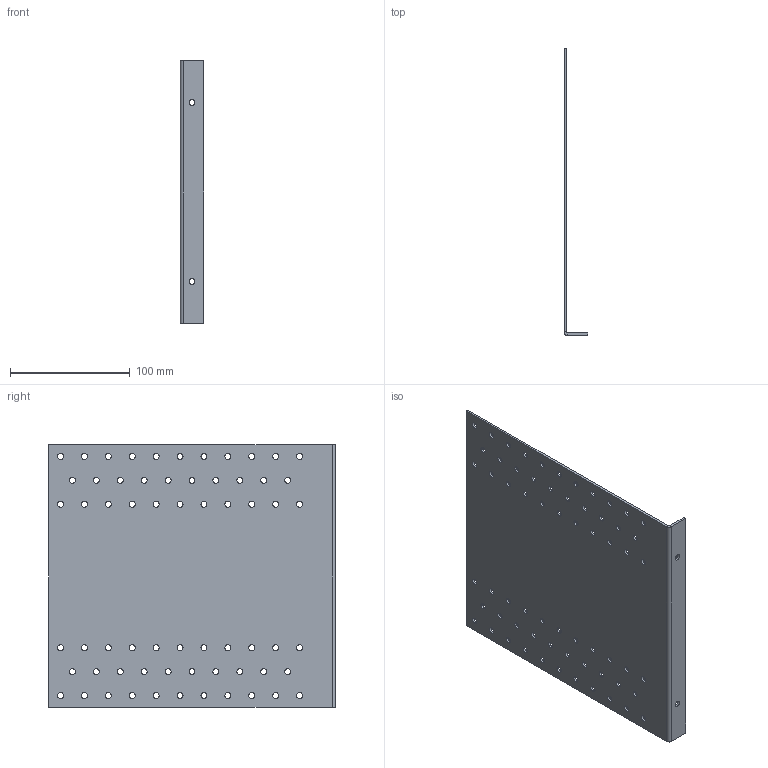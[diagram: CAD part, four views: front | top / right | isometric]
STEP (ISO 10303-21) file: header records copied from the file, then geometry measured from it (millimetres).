
FILE_DESCRIPTION (( 'STEP AP203' ), '1' );
FILE_NAME ('224.STEP', '2020-04-17T13:10:47', ( '' ), ( '' ), 'SwSTEP 2.0', 'SolidWorks 2013', '' );
FILE_SCHEMA (( 'CONFIG_CONTROL_DESIGN' ));
Length unit declared in the file: millimetre
Products named in the file (1): 224
Bounding box: 20 x 240 x 220 mm (x, y, z)
Volume: 110601.1 mm3; surface area: 114583.6 mm2
Topology: 1 solids, 1 shells, 146 faces, 424 edges, 280 vertices
Faces by surface type: cylinder 134, plane 12
Entity records: 5313 total; most frequent: DIRECTION 986, CARTESIAN_POINT 851, ORIENTED_EDGE 848, EDGE_CURVE 424, AXIS2_PLACEMENT_3D 415, VERTEX_POINT 280, EDGE_LOOP 278, CIRCLE 268
